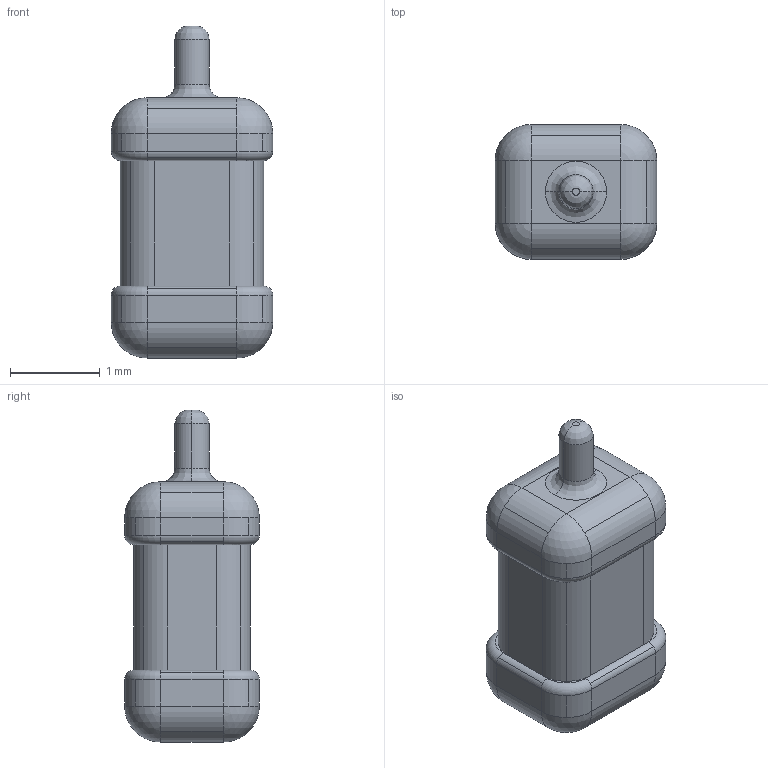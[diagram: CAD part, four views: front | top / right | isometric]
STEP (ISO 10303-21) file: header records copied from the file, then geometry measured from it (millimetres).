
FILE_DESCRIPTION((''),'2;1');
FILE_NAME('591D_A-case_15H.stp','2019-05-02T10:51:26',(''),(''),'AutoCAD STEP 2000i','AutoCAD 2000i',', , ');
FILE_SCHEMA(('CONFIG_CONTROL_DESIGN'));
Length unit declared in the file: millimetre
Products named in the file (2): 591D_A-CASE_15H; MODEL
Assembly tree (1 placements, depth 2):
  591D_A-CASE_15H
    MODEL
Bounding box: 1.8 x 1.5 x 3.7 mm (x, y, z)
Volume: 6.3 mm3; surface area: 20.5 mm2
Topology: 1 solids, 1 shells, 101 faces, 242 edges, 136 vertices
Faces by surface type: cylinder 58, plane 23, torus 8, sphere 8, bspline 4
Entity records: 3129 total; most frequent: CARTESIAN_POINT 649, DIRECTION 564, ORIENTED_EDGE 468, EDGE_CURVE 234, AXIS2_PLACEMENT_3D 231, VERTEX_POINT 136, CIRCLE 132, VECTOR 102
